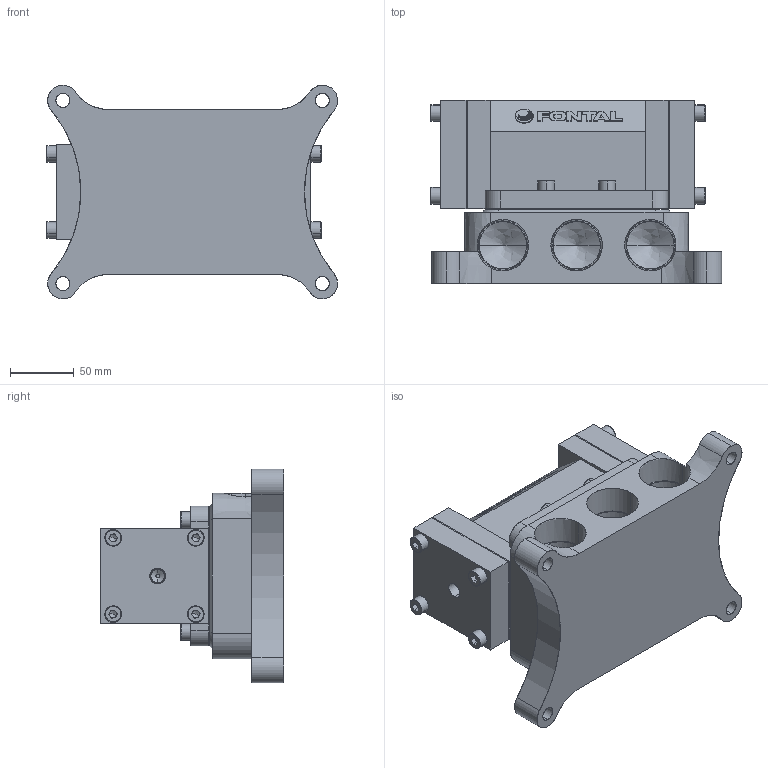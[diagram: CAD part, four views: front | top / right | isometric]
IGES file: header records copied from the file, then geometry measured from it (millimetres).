
Start section: SolidWorks IGES file using analytic representation for surfaces
Global section: file name: D:\Custom\3D繪製\VM\VM25\VMD2425-10.IGS,1; native system: 5HSolidWorks 2014; preprocessor: SolidWorks 2014; author: Chieh_Lu; date: 160114.023622; units: millimetre
Bounding box: 229 x 144 x 168 mm (x, y, z)
Surface area: 300297.8 mm2 (no closed solid volume)
Topology: 0 solids, 0 shells, 596 faces, 7434 edges, 7400 vertices
Faces by surface type: bspline 381, revolution 215
